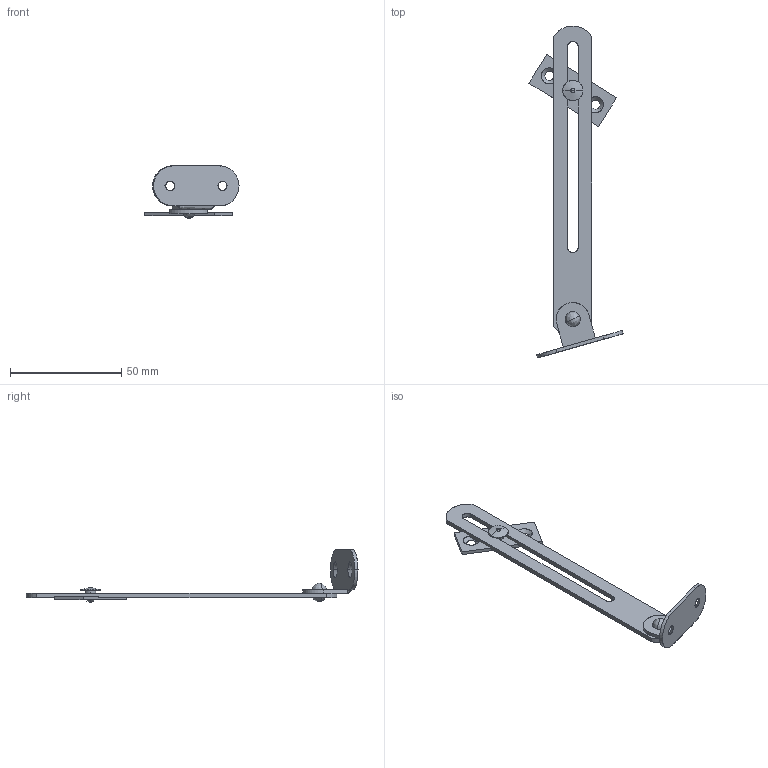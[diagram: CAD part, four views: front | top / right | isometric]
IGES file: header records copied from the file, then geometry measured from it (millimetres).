
Start section: SolidWorks IGES file using analytic representation for surfaces
Global section: file name: C:\Users\cbrechard\Desktop\BC 870.IGS; native system: SolidWorks 2017; preprocessor: SolidWorks 2017; author: cbrechard; date: 191029.145203; units: millimetre
Bounding box: 42.39 x 149.48 x 23.5 mm (x, y, z)
Surface area: 8395.5 mm2 (no closed solid volume)
Topology: 0 solids, 0 shells, 74 faces, 1342 edges, 1342 vertices
Faces by surface type: bspline 38, revolution 36
